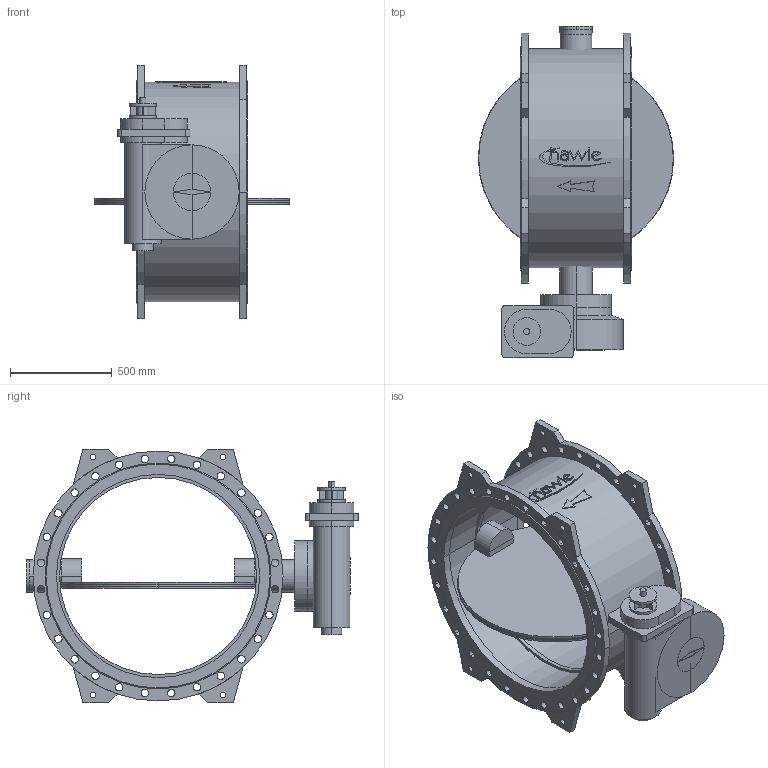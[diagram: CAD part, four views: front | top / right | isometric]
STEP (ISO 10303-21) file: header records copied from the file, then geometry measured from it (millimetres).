
FILE_DESCRIPTION(('STEP AP214'),'1');
FILE_NAME('S:/EK/USER/CAT6/3DHomepage_27-04-2012/neu_08-01-2013/9881K/9881K_PN10_DN1000.STP','2013-03-11T15:21:57',(' '),(' '),'Spatial InterOp 3D',' ',' ');
FILE_SCHEMA(('automotive_design'));
Length unit declared in the file: millimetre
Products named in the file (52): 3D-Objekt
Bounding box: 962 x 1634 x 1250 mm (x, y, z)
Volume: 201394835.6 mm3; surface area: 11356473.9 mm2
Topology: 52 solids, 52 shells, 465 faces, 1074 edges, 716 vertices
Faces by surface type: cylinder 243, plane 214, cone 8
Entity records: 18588 total; most frequent: DIRECTION 2610, CARTESIAN_POINT 2307, ORIENTED_EDGE 2148, EDGE_CURVE 1074, AXIS2_PLACEMENT_3D 1019, VERTEX_POINT 716, EDGE_LOOP 608, LINE 572
